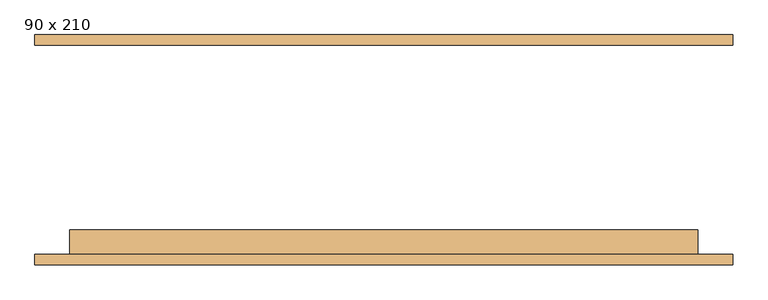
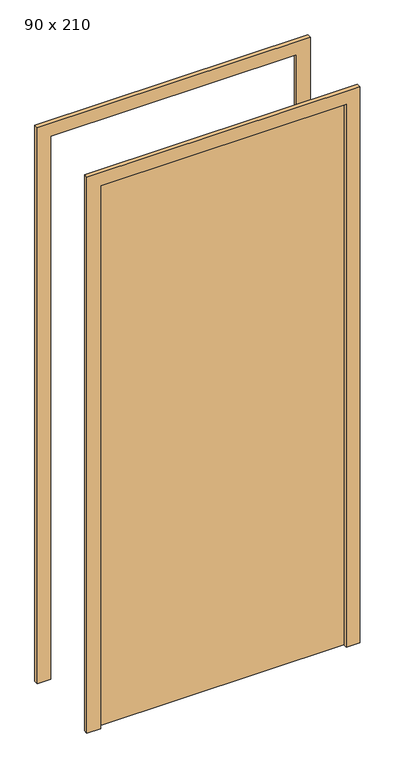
"""IFC4 building model written with IfcOpenShell, lengths in millimetres: door geometry, M_Descarga simples : 90 x 210."""

from ifc_helpers import new_model, si_unit, frame, origin, origin_with_axes, place, context, project, spatial, polyline, outline, extrude, source, transform, mapped, element, save


def door_90_x_210_977b44a1(model_context):
    return source(origin(), model_context, "Body", "SweptSolid", [
        extrude(outline(polyline([(2150.0, -500.0), (0.0, -500.0), (0.0, -450.0), (2100.0, -450.0), (2100.0, 450.0), (0.0, 450.0), (0.0, 500.0), (2150.0, 500.0), (2150.0, -500.0)])), frame((0.0, -165.0, 0.0), z_axis=(0.0, 1.0, 0.0), x_axis=(0.0, 0.0, 1.0)), (0.0, 0.0, 1.0), 15.0),
        extrude(outline(polyline([(2150.0, 500.0), (2150.0, -500.0), (0.0, -500.0), (0.0, -450.0), (2100.0, -450.0), (2100.0, 450.0), (0.0, 450.0), (0.0, 500.0), (2150.0, 500.0)])), frame((0.0, 150.0, 0.0), z_axis=(0.0, 1.0, 0.0), x_axis=(0.0, 0.0, 1.0)), (0.0, 0.0, 1.0), 15.0),
        extrude(outline(polyline([(450.0, -115.0), (450.0, -150.0), (-450.0, -150.0), (-450.0, -115.0), (450.0, -115.0)])), origin_with_axes(), (0.0, 0.0, 1.0), 2100.0),
    ])


if __name__ == "__main__":
    model = new_model("IFC4")
    model_context = context("Model", 3, world=origin())
    ifc_project = project(units=[si_unit("LENGTHUNIT", "METRE", prefix="MILLI")], contexts=[model_context])
    site = spatial("IfcSite", under=ifc_project)
    building = spatial("IfcBuilding", under=site)
    placement = place(None, origin())
    door_90_x_210_shape = door_90_x_210_977b44a1(model_context)
    element("IfcDoor", 1, ObjectType="M_Descarga simples : 90 x 210", at=placement, inside=building, context=model_context, shape_type="MappedRepresentation", body=[
        mapped(door_90_x_210_shape, transform((0.0, 0.0, 0.0), x_axis=(1.0, 0.0, 0.0), y_axis=(0.0, 1.0, 0.0), z_axis=(0.0, 0.0, 1.0))),
    ])
    save(model, "model.ifc")
